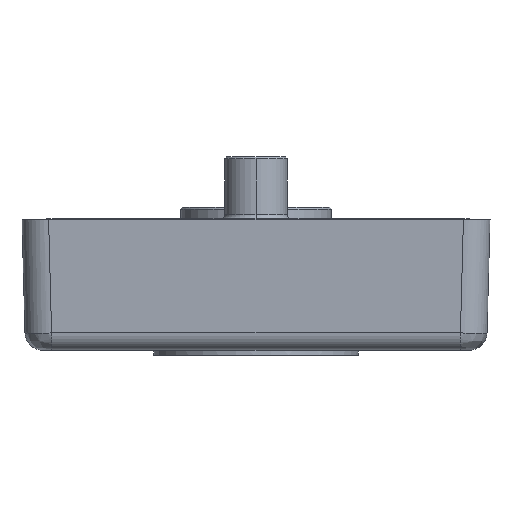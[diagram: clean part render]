
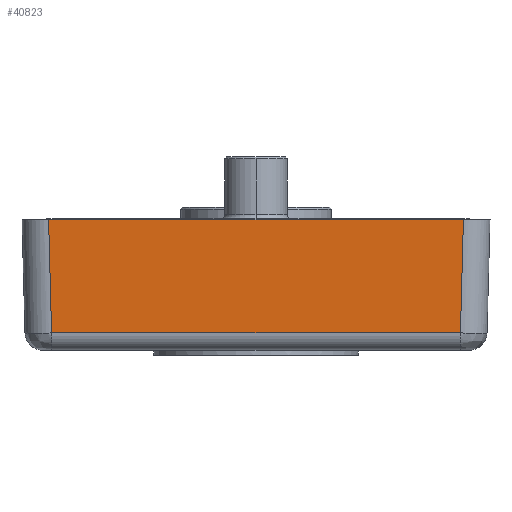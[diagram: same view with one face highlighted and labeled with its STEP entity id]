
A CAD part, front view. The second image highlights one B-rep face of the part: STEP entity #40823.
In plain terms, the highlighted planar face has unit normal (0, -1, -0.026).
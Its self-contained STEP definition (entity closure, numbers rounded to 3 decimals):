
#10854=CARTESIAN_POINT('',(23.386,-26.385,
14.7));
#10879=DIRECTION('',(0.026,0.026,-0.999));
#10880=VECTOR('',#10879,12.761);
#10881=CARTESIAN_POINT('',(-23.386,-26.385,
14.7));
#10882=LINE('',#10881,#10880);
#10883=DIRECTION('',(-1.,0.,0.));
#10884=VECTOR('',#10883,46.772);
#10885=CARTESIAN_POINT('',(23.386,-26.385,
14.7));
#10886=LINE('',#10885,#10884);
#10887=DIRECTION('',(0.026,-0.026,0.999));
#10888=VECTOR('',#10887,12.761);
#10889=CARTESIAN_POINT('',(23.052,-26.051,
1.948));
#10890=LINE('',#10889,#10888);
#11171=DIRECTION('',(-1.,0.,0.));
#11172=VECTOR('',#11171,46.104);
#11173=CARTESIAN_POINT('',(23.052,-26.051,
1.948));
#11174=LINE('',#11173,#11172);
#22546=CARTESIAN_POINT('',(23.052,-26.051,
1.948));
#22547=VERTEX_POINT('',#22546);
#22548=CARTESIAN_POINT('',(-23.052,-26.051,
1.948));
#22549=VERTEX_POINT('',#22548);
#22563=VERTEX_POINT('',#10854);
#22564=CARTESIAN_POINT('',(-23.386,-26.385,
14.7));
#22565=VERTEX_POINT('',#22564);
#40810=CARTESIAN_POINT('',(-26.,-26.,0.));
#40811=DIRECTION('',(0.,-1.,-0.026));
#40812=DIRECTION('',(1.,0.,0.));
#40813=AXIS2_PLACEMENT_3D('',#40810,#40811,#40812);
#40814=PLANE('',#40813);
#40816=ORIENTED_EDGE('',*,*,#40815,.F.);
#40817=ORIENTED_EDGE('',*,*,#40651,.F.);
#40818=ORIENTED_EDGE('',*,*,#40801,.F.);
#40820=ORIENTED_EDGE('',*,*,#40819,.T.);
#40821=EDGE_LOOP('',(#40816,#40817,#40818,#40820));
#40822=FACE_OUTER_BOUND('',#40821,.F.);
#40823=ADVANCED_FACE('',(#40822),#40814,.T.);
#40651=EDGE_CURVE('',#22563,#22565,#10886,.T.);
#40801=EDGE_CURVE('',#22547,#22563,#10890,.T.);
#40815=EDGE_CURVE('',#22565,#22549,#10882,.T.);
#40819=EDGE_CURVE('',#22547,#22549,#11174,.T.);
